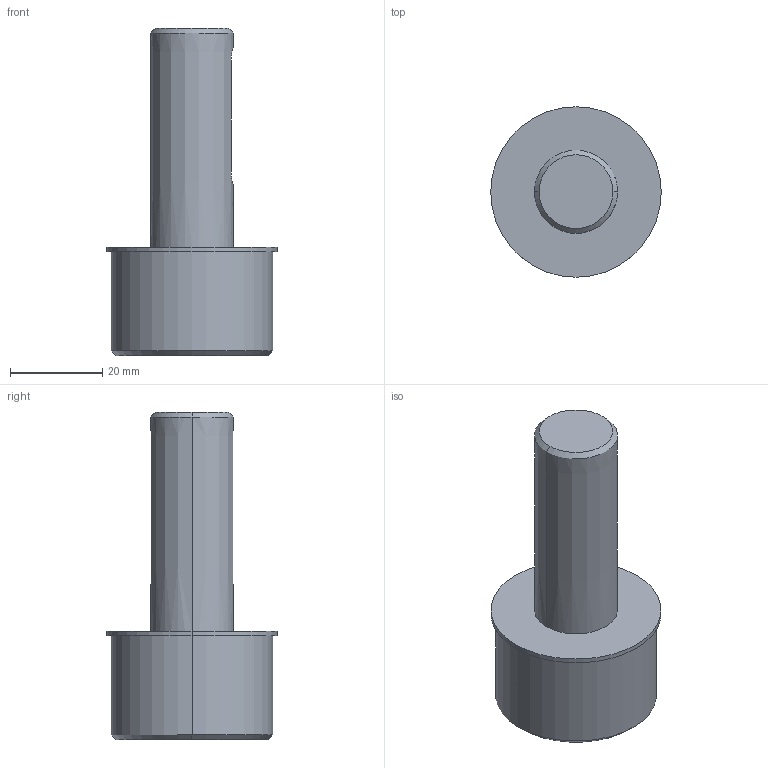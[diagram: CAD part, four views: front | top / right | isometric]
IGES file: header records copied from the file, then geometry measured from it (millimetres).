
Start section:  PTC IGES file: SJ-80.igs
Global section: file name: SJ-80.igs; native system: Pro/ENGINEER by Parametric Technology Corporation; preprocessor: 2009440; author: OWNER; organization: Unknown; date: 20181015.094202; units: millimetre
Bounding box: 37 x 37 x 71 mm (x, y, z)
Surface area: 7527.8 mm2 (no closed solid volume)
Topology: 0 solids, 0 shells, 19 faces, 82 edges, 82 vertices
Faces by surface type: revolution 12, bspline 7
